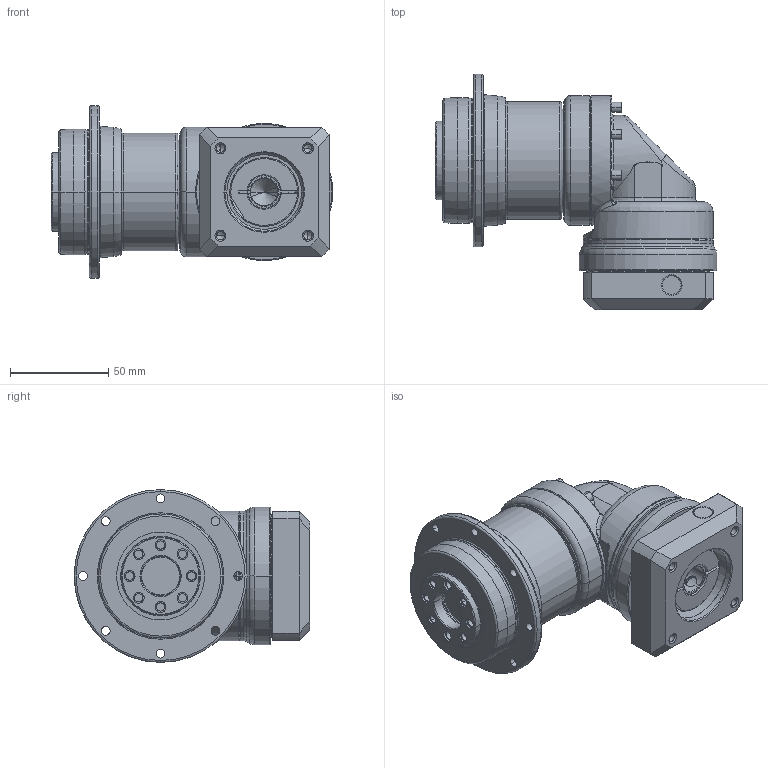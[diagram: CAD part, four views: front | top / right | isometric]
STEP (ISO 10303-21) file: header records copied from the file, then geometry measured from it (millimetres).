
FILE_DESCRIPTION((''),'2;1');
FILE_NAME('PDR064_2ST_14-P0411300101_ASM','2016-06-06T',('d01943'),(''),'PRO/ENGINEER BY PARAMETRIC TECHNOLOGY CORPORATION, 2008410','PRO/ENGINEER BY PARAMETRIC TECHNOLOGY CORPORATION, 2008410','');
FILE_SCHEMA(('CONFIG_CONTROL_DESIGN'));
Length unit declared in the file: millimetre
Products named in the file (10): P1355200001; P0367200001; P0275200001; P1349200001; P1017200001; P1350200201; P0411300101; P0503300005; P0713200201; PDR064_2ST_14-P0411300101_ASM
Assembly tree (9 placements, depth 2):
  PDR064_2ST_14-P0411300101_ASM
    P1355200001
    P0367200001
    P0275200001
    P1349200001
    P1017200001
    P1350200201
    P0411300101
    P0503300005
    P0713200201
Bounding box: 143.5 x 120 x 88 mm (x, y, z)
Volume: 466661.7 mm3; surface area: 111396 mm2
Topology: 9 solids, 9 shells, 559 faces, 1257 edges, 738 vertices
Faces by surface type: cylinder 193, cone 158, plane 92, torus 86, bspline 30
Entity records: 18191 total; most frequent: CARTESIAN_POINT 5473, DIRECTION 2846, ORIENTED_EDGE 2446, EDGE_CURVE 1223, AXIS2_PLACEMENT_3D 1217, VERTEX_POINT 738, CIRCLE 669, EDGE_LOOP 659
